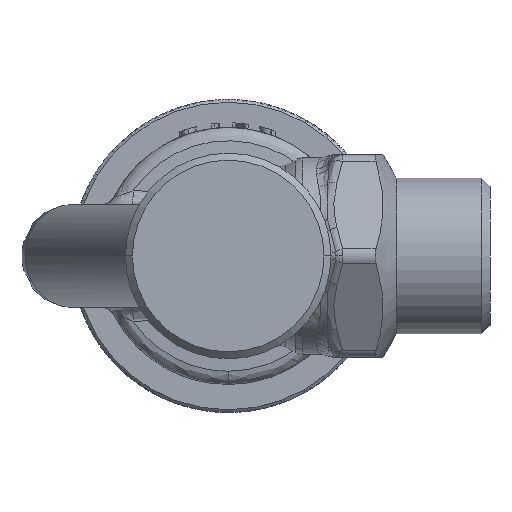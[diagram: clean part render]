
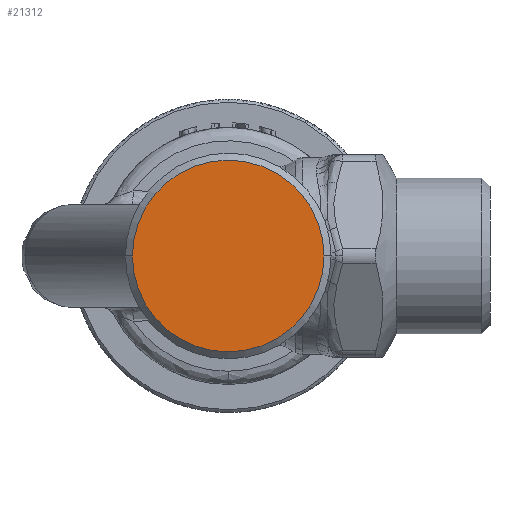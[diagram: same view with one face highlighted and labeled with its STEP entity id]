
A CAD part, front view. The second image highlights one B-rep face of the part: STEP entity #21312.
In plain terms, the highlighted planar face has unit normal (0, -1, 0).
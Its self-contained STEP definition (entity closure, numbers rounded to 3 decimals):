
#860 = AXIS2_PLACEMENT_3D ( 'NONE', #4436, #1799, #1439 ) ;
#1171 = AXIS2_PLACEMENT_3D ( 'NONE', #4660, #16642, #10867 ) ;
#1439 = DIRECTION ( 'NONE',  ( 0., 0., 1. ) ) ;
#1618 = EDGE_CURVE ( 'NONE', #19486, #29413, #15309, .T. ) ;
#1799 = DIRECTION ( 'NONE',  ( 0., 1., 0. ) ) ;
#3039 = CARTESIAN_POINT ( 'NONE',  ( 10.25, -23., 0. ) ) ;
#3671 = CARTESIAN_POINT ( 'NONE',  ( 0., -23., 0. ) ) ;
#4436 = CARTESIAN_POINT ( 'NONE',  ( -11., -23., 0. ) ) ;
#4660 = CARTESIAN_POINT ( 'NONE',  ( 0., -23., 0. ) ) ;
#5562 = ORIENTED_EDGE ( 'NONE', *, *, #1618, .F. ) ;
#6657 = DIRECTION ( 'NONE',  ( -1., 0., 0. ) ) ;
#10867 = DIRECTION ( 'NONE',  ( -1., 0., 0. ) ) ;
#14976 = EDGE_CURVE ( 'NONE', #29413, #19486, #20366, .T. ) ;
#15309 = CIRCLE ( 'NONE', #1171, 10.25 ) ;
#15798 = PLANE ( 'NONE',  #860 ) ;
#16261 = AXIS2_PLACEMENT_3D ( 'NONE', #3671, #32162, #6657 ) ;
#16642 = DIRECTION ( 'NONE',  ( 0., 1., 0. ) ) ;
#19486 = VERTEX_POINT ( 'NONE', #3039 ) ;
#20366 = CIRCLE ( 'NONE', #16261, 10.25 ) ;
#21312 = ADVANCED_FACE ( 'NONE', ( #28194 ), #15798, .F. ) ;
#22139 = CARTESIAN_POINT ( 'NONE',  ( -10.25, -23., 0. ) ) ;
#28194 = FACE_OUTER_BOUND ( 'NONE', #36078, .T. ) ;
#29413 = VERTEX_POINT ( 'NONE', #22139 ) ;
#32162 = DIRECTION ( 'NONE',  ( 0., 1., 0. ) ) ;
#34859 = ORIENTED_EDGE ( 'NONE', *, *, #14976, .F. ) ;
#36078 = EDGE_LOOP ( 'NONE', ( #34859, #5562 ) ) ;
